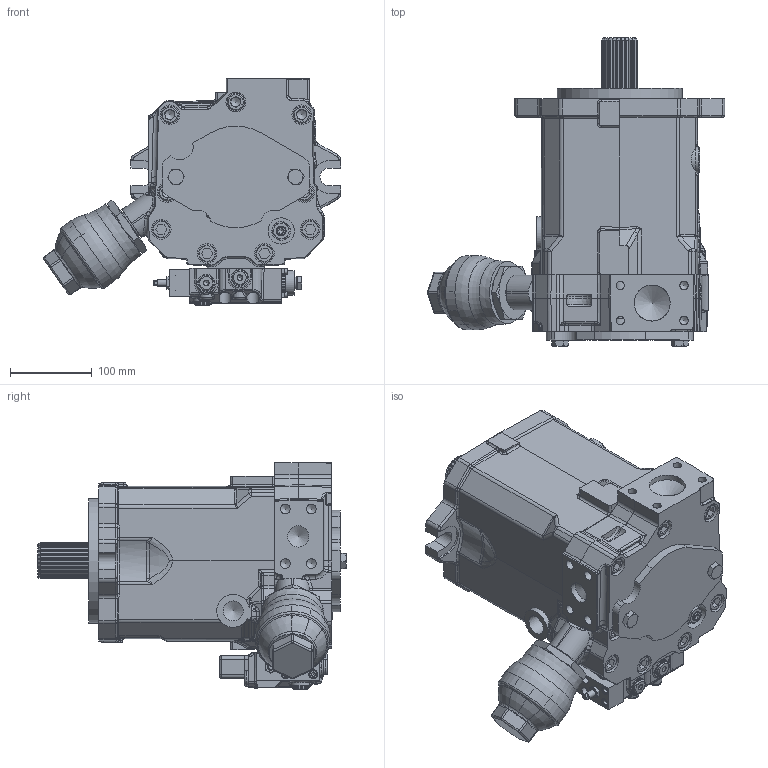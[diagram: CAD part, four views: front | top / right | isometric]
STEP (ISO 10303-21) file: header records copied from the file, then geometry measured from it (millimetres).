
FILE_DESCRIPTION(/* description */ (''),/* implementation_level */ '2;1');
FILE_NAME(/* name */ '2558055036m355.stp',/* time_stamp */ '2012-03-30T14:15:05+02:00',/* author */ (''),/* organization */ (''),/* preprocessor_version */ 'ST-DEVELOPER v11',/* originating_system */ 'SIEMENS PLM Software NX 7.5',/* authorisation */ '');
FILE_SCHEMA (('AUTOMOTIVE_DESIGN { 1 0 10303 214 1 1 1 1 }'));
Products named in the file (1): 2558055036m355
Bounding box: 362.96 x 376.6 x 276.8 mm (x, y, z)
Volume: 12941616.5 mm3; surface area: 848254.7 mm2
Topology: 10 solids, 32 shells, 2764 faces, 6674 edges, 4084 vertices
Faces by surface type: plane 1112, cylinder 722, cone 412, bspline 245, torus 147, sphere 60, revolution 42, extrusion 24
Full cylindrical faces by diameter (mm): 2 x2, 3 x2, 5 x7, 5.2 x6, 6 x3, 6.4 x2, 6.8 x4, 6.985 x5, 7 x6, 8 x8, 9 x8, 9.9 x1, 9.95 x2, 10 x6, 10.2 x5, 10.5 x1, 11 x6, 11.001 x1, 11.85 x2, 12 x20, 12.5 x1, 12.782 x9, 13 x6, 13.7 x1, 13.732 x4, 13.8 x1, 14 x5, 15 x3, 15.1 x1, 15.5 x9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
Entity records: 81174 total; most frequent: CARTESIAN_POINT 21637, DIRECTION 12095, ORIENTED_EDGE 11840, EDGE_CURVE 5920, AXIS2_PLACEMENT_3D 4705, VERTEX_POINT 3897, EDGE_LOOP 3442, ADVANCED_FACE 2764
